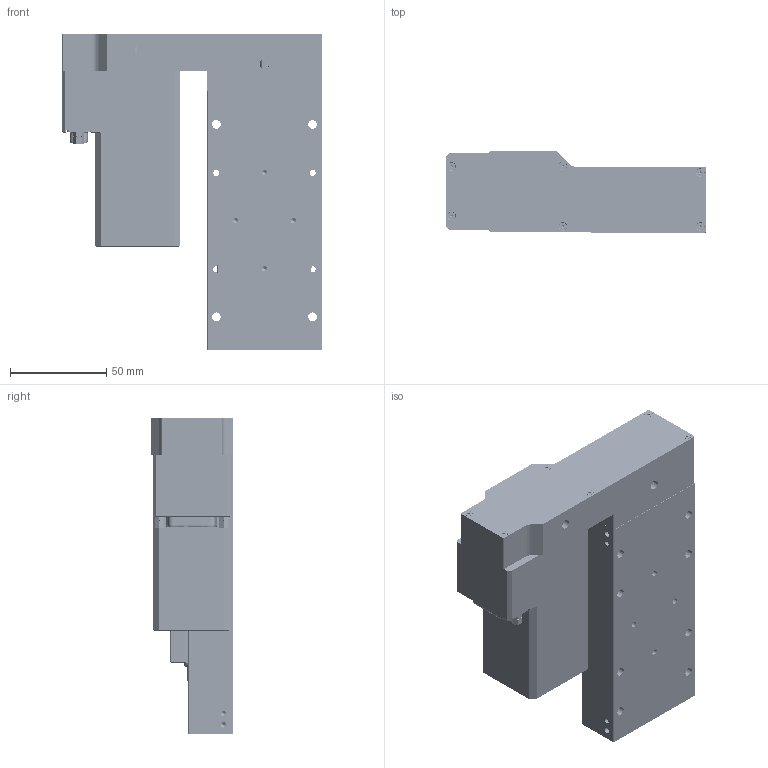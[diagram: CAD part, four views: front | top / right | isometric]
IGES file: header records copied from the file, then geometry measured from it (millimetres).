
Start section: SolidWorks IGES file using analytic representation for surfaces
Global section: file name: S:\Teile-Körper\IGES-08\41.065.75xE.IGS; native system: SolidWorks 2019; preprocessor: SolidWorks 2019; author: RFR; date: 220729.114135; units: millimetre
Bounding box: 135.3 x 42.5 x 164.7 mm (x, y, z)
Surface area: 132613.5 mm2 (no closed solid volume)
Topology: 0 solids, 0 shells, 3088 faces, 39026 edges, 38716 vertices
Faces by surface type: revolution 1593, bspline 1495
